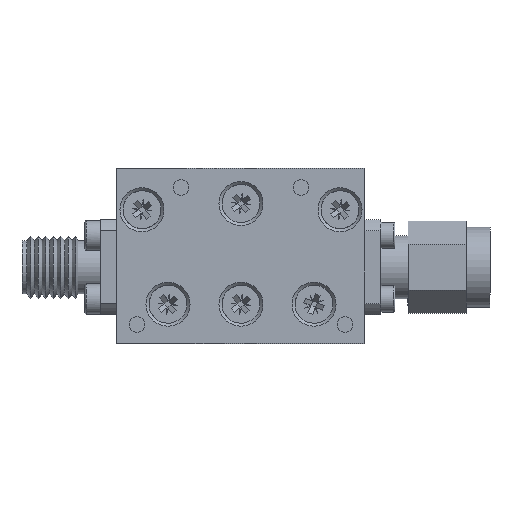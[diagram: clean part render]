
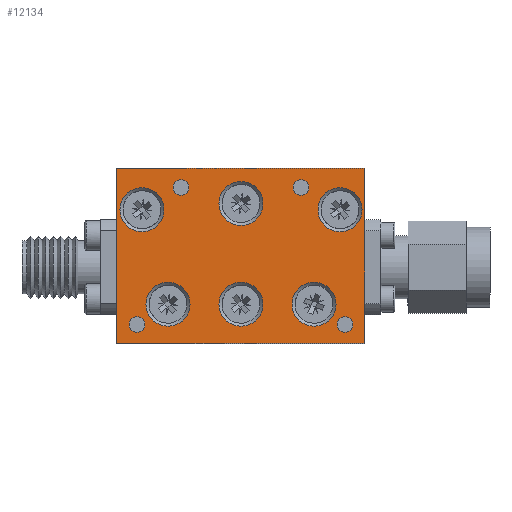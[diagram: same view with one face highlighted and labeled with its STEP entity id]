
A CAD part, top view. The second image highlights one B-rep face of the part: STEP entity #12134.
In plain terms, the highlighted planar face has unit normal (0, 0, 1).
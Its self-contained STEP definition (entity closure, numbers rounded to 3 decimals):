
#188=LINE('',#15971,#1024);
#193=LINE('',#16034,#1029);
#215=LINE('',#16091,#1051);
#216=LINE('',#16093,#1052);
#1024=VECTOR('',#13532,1000.);
#1029=VECTOR('',#13601,1000.);
#1051=VECTOR('',#13649,1000.);
#1052=VECTOR('',#13652,1000.);
#1849=PLANE('',#12727);
#2326=ORIENTED_EDGE('',*,*,#4639,.F.);
#2327=ORIENTED_EDGE('',*,*,#4640,.F.);
#2328=ORIENTED_EDGE('',*,*,#4641,.F.);
#2329=ORIENTED_EDGE('',*,*,#4642,.F.);
#2330=ORIENTED_EDGE('',*,*,#4601,.T.);
#2331=ORIENTED_EDGE('',*,*,#4597,.T.);
#2332=ORIENTED_EDGE('',*,*,#4593,.T.);
#2333=ORIENTED_EDGE('',*,*,#4643,.T.);
#2334=ORIENTED_EDGE('',*,*,#4589,.T.);
#2335=ORIENTED_EDGE('',*,*,#4585,.T.);
#2336=ORIENTED_EDGE('',*,*,#4606,.F.);
#2337=ORIENTED_EDGE('',*,*,#4638,.F.);
#2338=ORIENTED_EDGE('',*,*,#4580,.F.);
#2339=ORIENTED_EDGE('',*,*,#4637,.F.);
#4580=EDGE_CURVE('',#5746,#5747,#188,.T.);
#4585=EDGE_CURVE('',#5751,#5751,#6561,.T.);
#4589=EDGE_CURVE('',#5755,#5755,#6565,.T.);
#4593=EDGE_CURVE('',#5759,#5759,#6569,.T.);
#4597=EDGE_CURVE('',#5763,#5763,#6573,.T.);
#4601=EDGE_CURVE('',#5767,#5767,#6577,.T.);
#4606=EDGE_CURVE('',#5772,#5773,#193,.T.);
#4637=EDGE_CURVE('',#5773,#5746,#215,.T.);
#4638=EDGE_CURVE('',#5747,#5772,#216,.T.);
#4639=EDGE_CURVE('',#5795,#5795,#6588,.T.);
#4640=EDGE_CURVE('',#5796,#5796,#6589,.T.);
#4641=EDGE_CURVE('',#5797,#5797,#6590,.T.);
#4642=EDGE_CURVE('',#5798,#5798,#6591,.T.);
#4643=EDGE_CURVE('',#5799,#5799,#6592,.T.);
#5746=VERTEX_POINT('',#15970);
#5747=VERTEX_POINT('',#15972);
#5751=VERTEX_POINT('',#15983);
#5755=VERTEX_POINT('',#15993);
#5759=VERTEX_POINT('',#16003);
#5763=VERTEX_POINT('',#16013);
#5767=VERTEX_POINT('',#16023);
#5772=VERTEX_POINT('',#16033);
#5773=VERTEX_POINT('',#16035);
#5795=VERTEX_POINT('',#16096);
#5796=VERTEX_POINT('',#16098);
#5797=VERTEX_POINT('',#16100);
#5798=VERTEX_POINT('',#16102);
#5799=VERTEX_POINT('',#16104);
#6561=CIRCLE('',#12686,2.2);
#6565=CIRCLE('',#12692,2.2);
#6569=CIRCLE('',#12698,2.2);
#6573=CIRCLE('',#12704,2.2);
#6577=CIRCLE('',#12710,2.2);
#6588=CIRCLE('',#12728,0.784);
#6589=CIRCLE('',#12729,0.784);
#6590=CIRCLE('',#12730,0.784);
#6591=CIRCLE('',#12731,0.784);
#6592=CIRCLE('',#12732,2.2);
#6861=EDGE_LOOP('',(#2326));
#6862=EDGE_LOOP('',(#2327));
#6863=EDGE_LOOP('',(#2328));
#6864=EDGE_LOOP('',(#2329));
#6865=EDGE_LOOP('',(#2330));
#6866=EDGE_LOOP('',(#2331));
#6867=EDGE_LOOP('',(#2332));
#6868=EDGE_LOOP('',(#2333));
#6869=EDGE_LOOP('',(#2334));
#6870=EDGE_LOOP('',(#2335));
#6871=EDGE_LOOP('',(#2336,#2337,#2338,#2339));
#7608=FACE_BOUND('',#6861,.T.);
#7609=FACE_BOUND('',#6862,.T.);
#7610=FACE_BOUND('',#6863,.T.);
#7611=FACE_BOUND('',#6864,.T.);
#7612=FACE_BOUND('',#6865,.T.);
#7613=FACE_BOUND('',#6866,.T.);
#7614=FACE_BOUND('',#6867,.T.);
#7615=FACE_BOUND('',#6868,.T.);
#7616=FACE_BOUND('',#6869,.T.);
#7617=FACE_BOUND('',#6870,.T.);
#7618=FACE_BOUND('',#6871,.T.);
#12134=ADVANCED_FACE('',(#7608,#7609,#7610,#7611,#7612,#7613,#7614,#7615,
#7616,#7617,#7618),#1849,.F.);
#12686=AXIS2_PLACEMENT_3D('',#15982,#13544,#13545);
#12692=AXIS2_PLACEMENT_3D('',#15992,#13556,#13557);
#12698=AXIS2_PLACEMENT_3D('',#16002,#13568,#13569);
#12704=AXIS2_PLACEMENT_3D('',#16012,#13580,#13581);
#12710=AXIS2_PLACEMENT_3D('',#16022,#13592,#13593);
#12727=AXIS2_PLACEMENT_3D('',#16094,#13653,#13654);
#12728=AXIS2_PLACEMENT_3D('',#16095,#13655,#13656);
#12729=AXIS2_PLACEMENT_3D('',#16097,#13657,#13658);
#12730=AXIS2_PLACEMENT_3D('',#16099,#13659,#13660);
#12731=AXIS2_PLACEMENT_3D('',#16101,#13661,#13662);
#12732=AXIS2_PLACEMENT_3D('',#16103,#13663,#13664);
#13532=DIRECTION('',(0.,1.,0.));
#13544=DIRECTION('',(0.,0.,-1.));
#13545=DIRECTION('',(0.,-1.,0.));
#13556=DIRECTION('',(0.,0.,-1.));
#13557=DIRECTION('',(0.,-1.,0.));
#13568=DIRECTION('',(0.,0.,-1.));
#13569=DIRECTION('',(0.,-1.,0.));
#13580=DIRECTION('',(0.,0.,-1.));
#13581=DIRECTION('',(0.,-1.,0.));
#13592=DIRECTION('',(0.,0.,-1.));
#13593=DIRECTION('',(0.,-1.,0.));
#13601=DIRECTION('',(0.,-1.,0.));
#13649=DIRECTION('',(-1.,0.,0.));
#13652=DIRECTION('',(1.,0.,0.));
#13653=DIRECTION('',(0.,0.,-1.));
#13654=DIRECTION('',(1.,0.,0.));
#13655=DIRECTION('',(0.,0.,1.));
#13656=DIRECTION('',(-1.,0.,0.));
#13657=DIRECTION('',(0.,0.,1.));
#13658=DIRECTION('',(-1.,0.,0.));
#13659=DIRECTION('',(0.,0.,1.));
#13660=DIRECTION('',(-1.,0.,0.));
#13661=DIRECTION('',(0.,0.,1.));
#13662=DIRECTION('',(-1.,0.,0.));
#13663=DIRECTION('',(0.,0.,-1.));
#13664=DIRECTION('',(0.,-1.,0.));
#15970=CARTESIAN_POINT('',(-12.4,-8.75,10.187));
#15971=CARTESIAN_POINT('',(-12.4,-8.75,10.187));
#15972=CARTESIAN_POINT('',(-12.4,8.75,10.187));
#15982=CARTESIAN_POINT('',(7.3,-4.83,10.187));
#15983=CARTESIAN_POINT('',(7.3,-7.03,10.187));
#15992=CARTESIAN_POINT('',(0.,-4.83,10.187));
#15993=CARTESIAN_POINT('',(0.,-7.03,10.187));
#16002=CARTESIAN_POINT('',(-9.9,4.62,10.187));
#16003=CARTESIAN_POINT('',(-9.9,2.42,10.187));
#16012=CARTESIAN_POINT('',(0.,5.245,10.187));
#16013=CARTESIAN_POINT('',(0.,3.045,10.187));
#16022=CARTESIAN_POINT('',(9.9,4.62,10.187));
#16023=CARTESIAN_POINT('',(9.9,2.42,10.187));
#16033=CARTESIAN_POINT('',(12.4,8.75,10.187));
#16034=CARTESIAN_POINT('',(12.4,8.75,10.187));
#16035=CARTESIAN_POINT('',(12.4,-8.75,10.187));
#16091=CARTESIAN_POINT('',(12.4,-8.75,10.187));
#16093=CARTESIAN_POINT('',(-12.4,8.75,10.187));
#16094=CARTESIAN_POINT('',(0.,0.,10.187));
#16095=CARTESIAN_POINT('',(6.,6.85,10.187));
#16096=CARTESIAN_POINT('',(5.217,6.85,10.187));
#16097=CARTESIAN_POINT('',(-6.,6.85,10.187));
#16098=CARTESIAN_POINT('',(-6.784,6.85,10.187));
#16099=CARTESIAN_POINT('',(-10.4,-6.85,10.187));
#16100=CARTESIAN_POINT('',(-11.184,-6.85,10.187));
#16101=CARTESIAN_POINT('',(10.4,-6.85,10.187));
#16102=CARTESIAN_POINT('',(9.617,-6.85,10.187));
#16103=CARTESIAN_POINT('',(-7.3,-4.83,10.187));
#16104=CARTESIAN_POINT('',(-7.3,-7.03,10.187));
